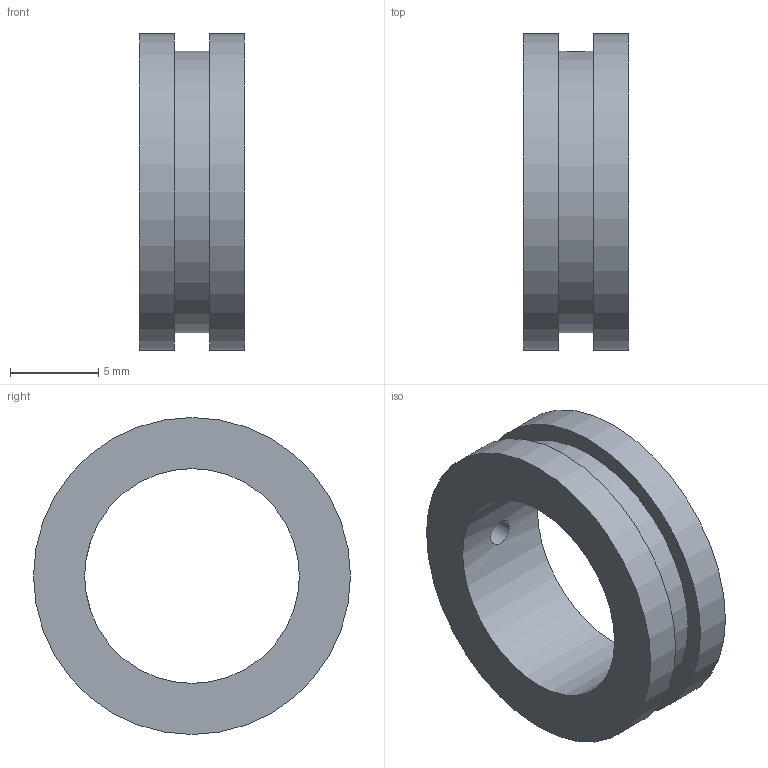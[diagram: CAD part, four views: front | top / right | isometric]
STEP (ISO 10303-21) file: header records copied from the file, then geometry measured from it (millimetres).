
FILE_DESCRIPTION(('FreeCAD Model'),'2;1');
FILE_NAME('Open CASCADE Shape Model','2026-11-20T09:06:14',('FreeCAD'),( 'FreeCAD'),'Open CASCADE STEP processor 7.8','FreeCAD','Unknown');
FILE_SCHEMA(('AUTOMOTIVE_DESIGN { 1 0 10303 214 1 1 1 1 }'));
Length unit declared in the file: millimetre
Products named in the file (1): Open CASCADE STEP translator 7.8 2
Bounding box: 6 x 18 x 18 mm (x, y, z)
Volume: 715.2 mm3; surface area: 944.1 mm2
Topology: 1 solids, 1 shells, 9 faces, 19 edges, 14 vertices
Faces by surface type: cylinder 5, plane 4
Full cylindrical faces by diameter (mm): 1.5 x1, 12.2 x1, 16 x1, 18 x2
Entity records: 374 total; most frequent: CARTESIAN_POINT 160, DIRECTION 40, ORIENTED_EDGE 38, EDGE_CURVE 19, AXIS2_PLACEMENT_3D 18, FACE_BOUND 15, EDGE_LOOP 15, VERTEX_POINT 14
